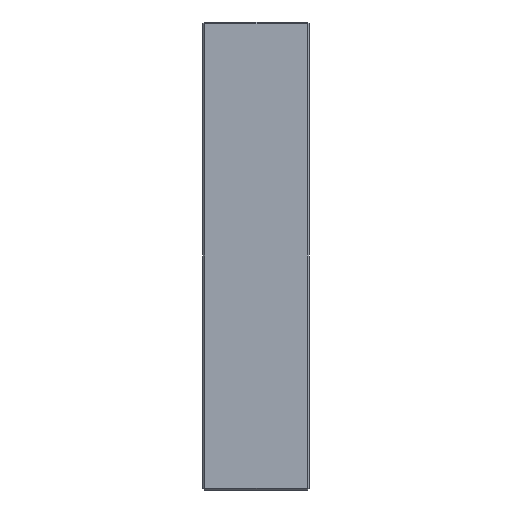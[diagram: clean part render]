
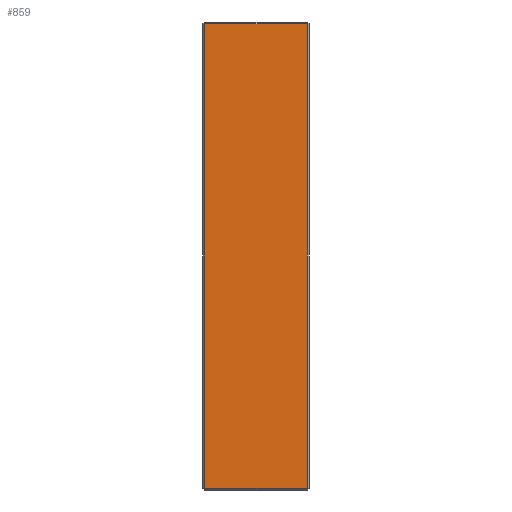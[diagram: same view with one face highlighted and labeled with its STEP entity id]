
A CAD part, left-side view. The second image highlights one B-rep face of the part: STEP entity #859.
In plain terms, the highlighted planar face has unit normal (-1, 0, 0).
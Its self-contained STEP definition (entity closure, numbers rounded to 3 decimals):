
#149 = ORIENTED_EDGE ( 'NONE', *, *, #184, .T. ) ;
#152 = EDGE_CURVE ( 'NONE', #1443, #735, #891, .T. ) ;
#184 = EDGE_CURVE ( 'NONE', #197, #1443, #1682, .T. ) ;
#197 = VERTEX_POINT ( 'NONE', #1547 ) ;
#458 = CARTESIAN_POINT ( 'NONE',  ( -123., 55., 123. ) ) ;
#483 = CARTESIAN_POINT ( 'NONE',  ( -123., 56., 122. ) ) ;
#509 = EDGE_CURVE ( 'NONE', #1422, #197, #1591, .T. ) ;
#537 = DIRECTION ( 'NONE',  ( 0., 1., 0. ) ) ;
#634 = EDGE_CURVE ( 'NONE', #735, #1422, #1066, .T. ) ;
#735 = VERTEX_POINT ( 'NONE', #1264 ) ;
#841 = VECTOR ( 'NONE', #537, 1000. ) ;
#857 = VECTOR ( 'NONE', #1221, 1000. ) ;
#859 = ADVANCED_FACE ( 'NONE', ( #1600 ), #1516, .F. ) ;
#891 = LINE ( 'NONE', #914, #857 ) ;
#914 = CARTESIAN_POINT ( 'NONE',  ( -123., 1., 123. ) ) ;
#1066 = LINE ( 'NONE', #483, #841 ) ;
#1221 = DIRECTION ( 'NONE',  ( 0., 0., 1. ) ) ;
#1264 = CARTESIAN_POINT ( 'NONE',  ( -123., 1., 122. ) ) ;
#1342 = ORIENTED_EDGE ( 'NONE', *, *, #509, .T. ) ;
#1422 = VERTEX_POINT ( 'NONE', #2542 ) ;
#1443 = VERTEX_POINT ( 'NONE', #2007 ) ;
#1496 = ORIENTED_EDGE ( 'NONE', *, *, #152, .T. ) ;
#1516 = PLANE ( 'NONE',  #2606 ) ;
#1525 = CARTESIAN_POINT ( 'NONE',  ( -123., 56., 123. ) ) ;
#1547 = CARTESIAN_POINT ( 'NONE',  ( -123., 55., -122. ) ) ;
#1552 = VECTOR ( 'NONE', #2458, 1000. ) ;
#1591 = LINE ( 'NONE', #458, #1552 ) ;
#1600 = FACE_OUTER_BOUND ( 'NONE', #2381, .T. ) ;
#1621 = DIRECTION ( 'NONE',  ( 0., 0., -1. ) ) ;
#1646 = DIRECTION ( 'NONE',  ( 1., 0., 0. ) ) ;
#1682 = LINE ( 'NONE', #2132, #2459 ) ;
#2007 = CARTESIAN_POINT ( 'NONE',  ( -123., 1., -122. ) ) ;
#2087 = ORIENTED_EDGE ( 'NONE', *, *, #634, .T. ) ;
#2132 = CARTESIAN_POINT ( 'NONE',  ( -123., 56., -122. ) ) ;
#2320 = DIRECTION ( 'NONE',  ( 0., -1., 0. ) ) ;
#2381 = EDGE_LOOP ( 'NONE', ( #2087, #1342, #149, #1496 ) ) ;
#2458 = DIRECTION ( 'NONE',  ( 0., 0., -1. ) ) ;
#2459 = VECTOR ( 'NONE', #2320, 1000. ) ;
#2542 = CARTESIAN_POINT ( 'NONE',  ( -123., 55., 122. ) ) ;
#2606 = AXIS2_PLACEMENT_3D ( 'NONE', #1525, #1646, #1621 ) ;
